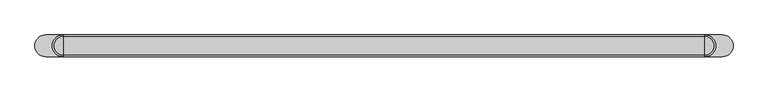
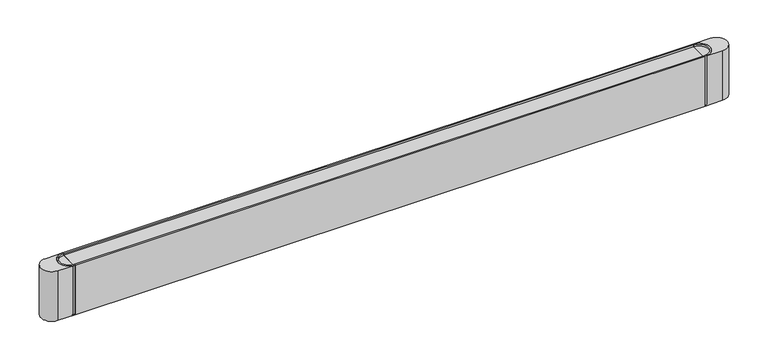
"""IFC4 building model written with IfcOpenShell, lengths in millimetres: light fixture geometry, Lighting-Recessed-Betacalco-Block-Straight : BLKR-DT1-PW01-TR01-SL04-EP01-LP020-CR80-CTA40."""

from ifc_helpers import new_model, si_unit, point, frame, frame_2d, origin, place, context, project, spatial, polyline, circle_curve, trimmed, segment, composite_curve, outline, extrude, source, transform, mapped, element, save
from ifc_brep_helpers import plane_surface, cylinder_surface, revolved_surface, advanced_brep


def light_fixture_ef775f02(model_context):
    return source(origin(), model_context, "Body", "SolidModel", [
        extrude(outline(composite_curve([segment(polyline([(609.6, -20.6375), (609.6, -18.0975)]), True, "CONTINUOUS"), segment(trimmed(circle_curve(frame_2d((609.6, 0.0)), 18.0975), [point((609.6, -18.0975))], [point((609.6, 18.0975))], True, "CARTESIAN"), True, "CONTINUOUS"), segment(polyline([(609.6, 18.0975), (609.6, 20.6375)]), True, "CONTINUOUS"), segment(trimmed(circle_curve(frame_2d((609.6, 0.0)), 20.6375), [point((609.6, 20.6375))], [point((609.6, -20.6375))], False, "CARTESIAN"), True, "CONTINUOUS")], self_intersect=False)), frame((0.0, 0.0, -100.0125), z_axis=(0.0, 0.0, 1.0), x_axis=(1.0, 0.0, 0.0)), (0.0, 0.0, 1.0), 100.0125),
        extrude(outline(composite_curve([segment(polyline([(609.6, -18.0975), (609.6, 18.0975)]), True, "CONTINUOUS"), segment(trimmed(circle_curve(frame_2d((609.6, 0.0)), 18.0975), [point((609.6, 18.0975))], [point((609.6, -18.0975))], False, "CARTESIAN"), True, "CONTINUOUS")], self_intersect=False)), frame((0.0, 0.0, -5.2904412), z_axis=(0.0, 0.0, 1.0), x_axis=(1.0, 0.0, 0.0)), (0.0, 0.0, 1.0), 1.5875),
        advanced_brep(
        [(609.6, 20.6375, -100.0125), (609.6, -20.6375, -100.0125), (609.6, -20.6375, -101.6), (609.6, 20.6375, -101.6), (642.9375, 20.6375, -101.6), (642.9375, -20.6375, -101.6), (609.6, 20.6375, 0.0), (609.6, -20.6375, 0.0), (642.9375, -20.6375, 0.0), (642.9375, 20.6375, 0.0)],
        [
            (0, 1),
            (1, 0, circle_curve(frame((609.6, 0.0, -100.0125), z_axis=(0.0, 0.0, 1.0), x_axis=(1.0, 0.0, 0.0)), 20.6375)),
            (2, 3),
            (3, 4),
            (4, 5, circle_curve(frame((642.9375, 0.0, -101.6), z_axis=(0.0, 0.0, -1.0), x_axis=(1.0, 0.0, 0.0)), 20.6375)),
            (5, 2),
            (0, 3),
            (2, 1),
            (6, 7, circle_curve(frame((609.6, 0.0, 0.0), z_axis=(0.0, 0.0, -1.0), x_axis=(1.0, 0.0, 0.0)), 20.6375)),
            (7, 8),
            (8, 9, circle_curve(frame((642.9375, 0.0, 0.0), z_axis=(0.0, 0.0, 1.0), x_axis=(1.0, 0.0, 0.0)), 20.6375)),
            (9, 6),
            (6, 0),
            (1, 7),
            (5, 8),
            (4, 9),
        ],
        [
            plane_surface(frame((630.2375, 0.0, -100.0125), z_axis=(0.0, 0.0, 1.0), x_axis=(0.0, 1.0, 0.0))),
            plane_surface(frame((630.2375, 0.0, -101.6), z_axis=(0.0, 0.0, -1.0), x_axis=(0.0, -1.0, 0.0))),
            plane_surface(frame((609.6, 20.6375, -100.0125), z_axis=(-1.0, 0.0, 0.0), x_axis=(0.0, 0.0, -1.0))),
            plane_surface(frame((630.2375, 0.0, 0.0), z_axis=(0.0, 0.0, 1.0), x_axis=(0.0, -1.0, 0.0))),
            revolved_surface(polyline([(630.2375000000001, 0.0, -100.0125), (630.2375000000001, 0.0, 0.0)]), (609.6, 0.0, -101.6), (0.0, 0.0, -1.0)),
            plane_surface(frame((609.6, -20.6375, 0.0), z_axis=(0.0, -1.0, 0.0), x_axis=(0.0, 0.0, -1.0))),
            cylinder_surface(frame((642.9375, 0.0, -101.6), z_axis=(0.0, 0.0, 1.0), x_axis=(1.0, 0.0, 0.0)), 20.6375),
            plane_surface(frame((642.9375, 20.6375, 0.0), z_axis=(0.0, 1.0, 0.0), x_axis=(0.0, 0.0, -1.0))),
        ],
        [
            (0, [[1, 2]]),
            (1, [[3, 4, 5, 6]]),
            (2, [[-1, 7, -3, 8]]),
            (3, [[9, 10, 11, 12]]),
            (4, [[-9, 13, -2, 14]]),
            (5, [[-10, -14, -8, -6, 15]]),
            (6, [[-11, -15, -5, 16]]),
            (7, [[-12, -16, -4, -7, -13]]),
        ],
    ),
        extrude(outline(composite_curve([segment(polyline([(-609.6, 20.6375), (-609.6, 18.0975)]), True, "CONTINUOUS"), segment(trimmed(circle_curve(frame_2d((-609.6, 0.0)), 18.0975), [point((-609.6, 18.0975))], [point((-609.6, -18.0975))], True, "CARTESIAN"), True, "CONTINUOUS"), segment(polyline([(-609.6, -18.0975), (-609.6, -20.6375)]), True, "CONTINUOUS"), segment(trimmed(circle_curve(frame_2d((-609.6, 0.0)), 20.6375), [point((-609.6, -20.6375))], [point((-609.6, 20.6375))], False, "CARTESIAN"), True, "CONTINUOUS")], self_intersect=False)), frame((0.0, 0.0, -100.0125), z_axis=(0.0, 0.0, 1.0), x_axis=(1.0, 0.0, 0.0)), (0.0, 0.0, 1.0), 100.0125),
        extrude(outline(composite_curve([segment(polyline([(-609.6, 18.0975), (-609.6, -18.0975)]), True, "CONTINUOUS"), segment(trimmed(circle_curve(frame_2d((-609.6, 0.0)), 18.0975), [point((-609.6, -18.0975))], [point((-609.6, 18.0975))], False, "CARTESIAN"), True, "CONTINUOUS")], self_intersect=False)), frame((0.0, 0.0, -5.2904412), z_axis=(0.0, 0.0, 1.0), x_axis=(1.0, 0.0, 0.0)), (0.0, 0.0, 1.0), 1.5875),
        advanced_brep(
        [(-609.6, -20.6375, -100.0125), (-609.6, 20.6375, -100.0125), (-609.6, 20.6375, -101.6), (-609.6, -20.6375, -101.6), (-642.9375, -20.6375, -101.6), (-642.9375, 20.6375, -101.6), (-609.6, -20.6375, 0.0), (-609.6, 20.6375, 0.0), (-642.9375, 20.6375, 0.0), (-642.9375, -20.6375, 0.0)],
        [
            (0, 1),
            (1, 0, circle_curve(frame((-609.6, 0.0, -100.0125), z_axis=(0.0, 0.0, 1.0), x_axis=(-1.0, 0.0, 0.0)), 20.6375)),
            (2, 3),
            (3, 4),
            (4, 5, circle_curve(frame((-642.9375, 0.0, -101.6), z_axis=(0.0, 0.0, -1.0), x_axis=(-1.0, 0.0, 0.0)), 20.6375)),
            (5, 2),
            (0, 3),
            (2, 1),
            (6, 7, circle_curve(frame((-609.6, 0.0, 0.0), z_axis=(0.0, 0.0, -1.0), x_axis=(-1.0, 0.0, 0.0)), 20.6375)),
            (7, 8),
            (8, 9, circle_curve(frame((-642.9375, 0.0, 0.0), z_axis=(0.0, 0.0, 1.0), x_axis=(-1.0, 0.0, 0.0)), 20.6375)),
            (9, 6),
            (6, 0),
            (1, 7),
            (5, 8),
            (4, 9),
        ],
        [
            plane_surface(frame((-630.2375, 0.0, -100.0125), z_axis=(0.0, 0.0, 1.0), x_axis=(0.0, -1.0, 0.0))),
            plane_surface(frame((-630.2375, 0.0, -101.6), z_axis=(0.0, 0.0, -1.0), x_axis=(0.0, 1.0, 0.0))),
            plane_surface(frame((-609.6, -20.6375, -100.0125), z_axis=(1.0, 0.0, 0.0), x_axis=(0.0, 0.0, -1.0))),
            plane_surface(frame((-630.2375, 0.0, 0.0), z_axis=(0.0, 0.0, 1.0), x_axis=(0.0, 1.0, 0.0))),
            revolved_surface(polyline([(-630.2375000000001, 0.0, -100.0125), (-630.2375000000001, 0.0, 0.0)]), (-609.6, 0.0, -101.6), (0.0, 0.0, -1.0)),
            plane_surface(frame((-609.6, 20.6375, 0.0), z_axis=(0.0, 1.0, 0.0), x_axis=(0.0, 0.0, -1.0))),
            cylinder_surface(frame((-642.9375, 0.0, -101.6), z_axis=(0.0, 0.0, 1.0), x_axis=(-1.0, 0.0, 0.0)), 20.6375),
            plane_surface(frame((-642.9375, -20.6375, 0.0), z_axis=(0.0, -1.0, 0.0), x_axis=(0.0, 0.0, -1.0))),
        ],
        [
            (0, [[1, 2]]),
            (1, [[3, 4, 5, 6]]),
            (2, [[-1, 7, -3, 8]]),
            (3, [[9, 10, 11, 12]]),
            (4, [[-9, 13, -2, 14]]),
            (5, [[-10, -14, -8, -6, 15]]),
            (6, [[-11, -15, -5, 16]]),
            (7, [[-12, -16, -4, -7, -13]]),
        ],
    ),
        extrude(outline(polyline([(609.6, 18.0975), (609.6, -18.0975), (-609.6, -18.0975), (-609.6, 18.0975), (609.6, 18.0975)])), frame((0.0, 0.0, -5.2904412), z_axis=(0.0, 0.0, 1.0), x_axis=(1.0, 0.0, 0.0)), (0.0, 0.0, 1.0), 1.5875),
        extrude(outline(polyline([(609.6, 18.0975), (609.6, -18.0975), (-609.6, -18.0975), (-609.6, 18.0975), (609.6, 18.0975)])), frame((0.0, 0.0, -47.912087), z_axis=(0.0, 0.0, 1.0), x_axis=(1.0, 0.0, 0.0)), (0.0, 0.0, 1.0), 1.5875),
        extrude(outline(polyline([(609.6, 18.0975), (609.6, -18.0975), (-609.6, -18.0975), (-609.6, 18.0975), (609.6, 18.0975)])), frame((0.0, 0.0, -101.6), z_axis=(0.0, 0.0, 1.0), x_axis=(1.0, 0.0, 0.0)), (0.0, 0.0, 1.0), 1.5875),
        extrude(outline(polyline([(609.6, 20.6375), (609.6, 18.0975), (-609.6, 18.0975), (-609.6, 20.6375), (609.6, 20.6375)])), frame((0.0, 0.0, -101.6), z_axis=(0.0, 0.0, 1.0), x_axis=(1.0, 0.0, 0.0)), (0.0, 0.0, 1.0), 101.6),
        extrude(outline(polyline([(609.6, -18.0975), (609.6, -20.6375), (-609.6, -20.6375), (-609.6, -18.0975), (609.6, -18.0975)])), frame((0.0, 0.0, -101.6), z_axis=(0.0, 0.0, 1.0), x_axis=(1.0, 0.0, 0.0)), (0.0, 0.0, 1.0), 101.6),
    ])


if __name__ == "__main__":
    model = new_model("IFC4")
    model_context = context("Model", 3, world=origin())
    ifc_project = project(units=[si_unit("LENGTHUNIT", "METRE", prefix="MILLI")], contexts=[model_context])
    site = spatial("IfcSite", under=ifc_project)
    building = spatial("IfcBuilding", under=site)
    placement = place(None, origin())
    light_fixture_shape = light_fixture_ef775f02(model_context)
    element("IfcLightFixture", 1, ObjectType="Lighting-Recessed-Betacalco-Block-Straight : BLKR-DT1-PW01-TR01-SL04-EP01-LP020-CR80-CTA40", at=placement, inside=building, context=model_context, shape_type="MappedRepresentation", body=[
        mapped(light_fixture_shape, transform((0.0, 0.0, 0.0), x_axis=(1.0, 0.0, 0.0), y_axis=(0.0, 1.0, 0.0), z_axis=(0.0, 0.0, 1.0))),
    ])
    save(model, "model.ifc")
